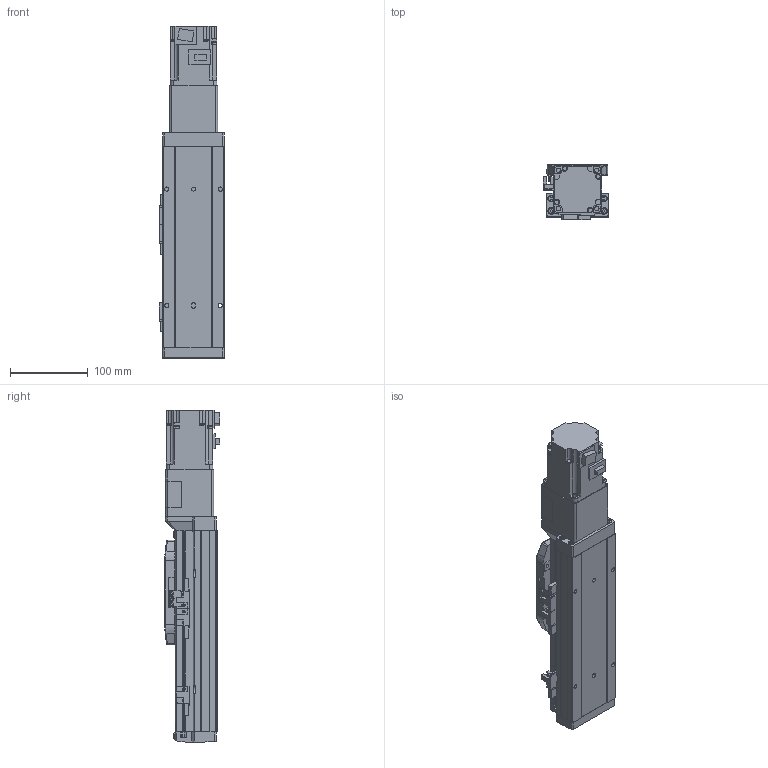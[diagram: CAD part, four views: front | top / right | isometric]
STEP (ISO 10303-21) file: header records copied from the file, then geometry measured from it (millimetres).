
FILE_DESCRIPTION (( 'STEP AP214' ), '1' );
FILE_NAME ('GSH8-100-BC-M20-1.step', '2025-01-07T06:02:53', ( '' ), ( '' ), 'SwSTEP 2.0', 'SolidWorks 2012', '' );
FILE_SCHEMA (( 'AUTOMOTIVE_DESIGN' ));
Length unit declared in the file: millimetre
Products named in the file (4): GSH8-100-BC-M20-1; HG-KR23_200W_Motor; GSH8-BC-011-100-M20; GSH8-GY-004
Assembly tree (3 placements, depth 2):
  GSH8-100-BC-M20-1
    GSH8-BC-011-100-M20
    GSH8-GY-004
    HG-KR23_200W_Motor
Bounding box: 84 x 71.3 x 427.6 mm (x, y, z)
Volume: 1156452.1 mm3; surface area: 261285.2 mm2
Topology: 3 solids, 7 shells, 1072 faces, 2822 edges, 1814 vertices
Faces by surface type: plane 627, cylinder 353, torus 38, cone 26, bspline 24, sphere 4
Entity records: 42278 total; most frequent: CARTESIAN_POINT 9608, DIRECTION 5704, ORIENTED_EDGE 5628, EDGE_CURVE 2814, AXIS2_PLACEMENT_3D 1906, VECTOR 1892, LINE 1892, VERTEX_POINT 1810
